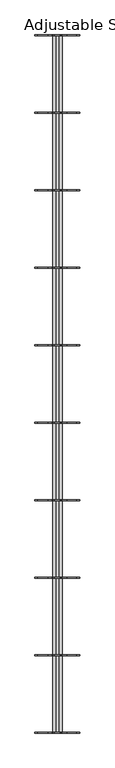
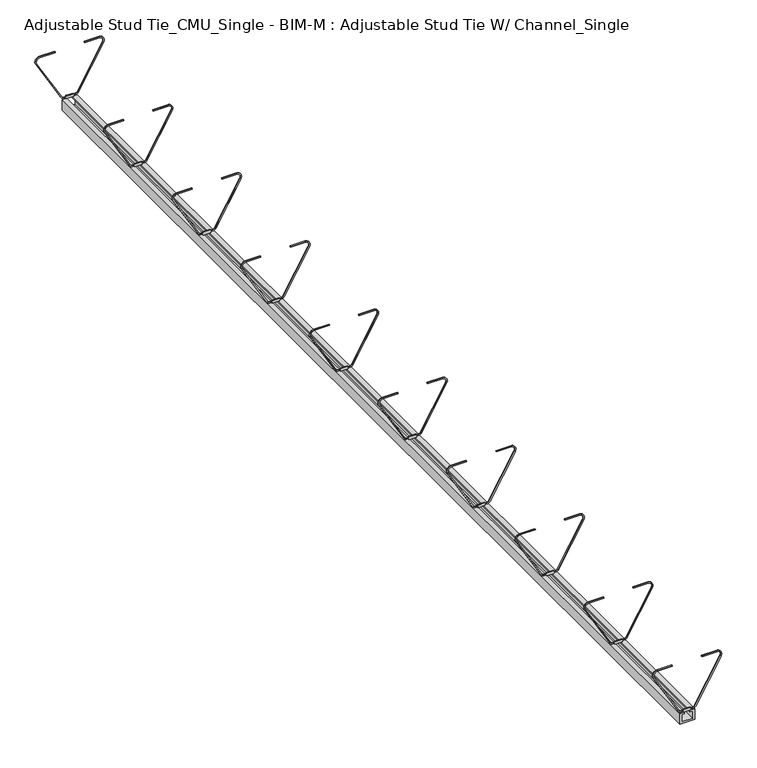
"""IFC4 building model written with IfcOpenShell, lengths in millimetres: proxy geometry, Adjustable Stud Tie_CMU_Single - BIM-M : Adjustable Stud Tie W/ Channel_Single."""

from ifc_helpers import new_model, si_unit, point, frame, frame_2d, origin, place, context, project, spatial, polyline, circle_curve, trimmed, segment, composite_curve, outline, extrude, source, transform, mapped, element, save


def adjustable_stud_tie_cmu_single_bim_m_adjustable_stud_tie_w_97ffc741(model_context):
    return source(origin(), model_context, "Body", "SweptSolid", [
        extrude(outline(composite_curve([segment(polyline([(-115.6954737, -10.6919936), (-115.6954737, -6.35), (-117.475, -6.35), (-117.475, 6.35), (-115.6954737, 6.35), (-115.6954737, 10.6919936)]), True, "CONTINUOUS"), segment(trimmed(circle_curve(frame_2d((-111.2621335, 10.5975194)), 4.4343467), [point((-115.6954737, 10.6919936))], [point((-113.4793069, 14.4377763))], False, "CARTESIAN"), True, "CONTINUOUS"), segment(polyline([(-113.4793069, 14.4377763), (-38.3089403, 57.8374077)]), True, "CONTINUOUS"), segment(trimmed(circle_curve(frame_2d((-34.2420568, 50.7933588)), 8.133767), [point((-38.3089403, 57.8374077))], [point((-26.1197927, 51.2257847))], False, "CARTESIAN"), True, "CONTINUOUS"), segment(polyline([(-26.1197927, 51.2257847), (-26.1197927, 25.4), (-27.7072927, 25.4), (-27.7072927, 51.1812638)]), True, "CONTINUOUS"), segment(trimmed(circle_curve(frame_2d((-34.2420568, 50.7933588)), 6.546267), [point((-27.7072927, 51.1812638))], [point((-37.5151903, 56.4625923))], True, "CARTESIAN"), True, "CONTINUOUS"), segment(polyline([(-37.5151903, 56.4625923), (-112.6855569, 13.062961)]), True, "CONTINUOUS"), segment(trimmed(circle_curve(frame_2d((-111.2621335, 10.5975194)), 2.8468467), [point((-112.6855569, 13.062961))], [point((-114.1079737, 10.6732143))], True, "CARTESIAN"), True, "CONTINUOUS"), segment(polyline([(-114.1079737, 10.6732143), (-114.1079737, 6.35), (-112.7125, 6.35), (-112.7125, -6.35), (-114.1079737, -6.35), (-114.1079737, -10.6732143)]), True, "CONTINUOUS"), segment(trimmed(circle_curve(frame_2d((-111.2621335, -10.5975194)), 2.8468467), [point((-114.1079737, -10.6732143))], [point((-112.6855569, -13.062961))], True, "CARTESIAN"), True, "CONTINUOUS"), segment(polyline([(-112.6855569, -13.062961), (-37.5151903, -56.4625923)]), True, "CONTINUOUS"), segment(trimmed(circle_curve(frame_2d((-34.2420568, -50.7933588)), 6.546267), [point((-37.5151903, -56.4625923))], [point((-27.7072927, -51.1812638))], True, "CARTESIAN"), True, "CONTINUOUS"), segment(polyline([(-27.7072927, -51.1812638), (-27.7072927, -25.4), (-26.1197927, -25.4), (-26.1197927, -51.2257847)]), True, "CONTINUOUS"), segment(trimmed(circle_curve(frame_2d((-34.2420568, -50.7933588)), 8.133767), [point((-26.1197927, -51.2257847))], [point((-38.3089403, -57.8374077))], False, "CARTESIAN"), True, "CONTINUOUS"), segment(polyline([(-38.3089403, -57.8374077), (-113.4793069, -14.4377763)]), True, "CONTINUOUS"), segment(trimmed(circle_curve(frame_2d((-111.2621335, -10.5975194)), 4.4343467), [point((-113.4793069, -14.4377763))], [point((-115.6954737, -10.6919936))], False, "CARTESIAN"), True, "CONTINUOUS")], self_intersect=False)), frame((0.0, 1828.8, 0.0), z_axis=(0.0, 1.0, 0.0), x_axis=(0.0, 0.0, 1.0)), (0.0, 0.0, 1.0), 1.5875),
        extrude(outline(composite_curve([segment(polyline([(-115.6954737, -10.6919936), (-115.6954737, -6.35), (-117.475, -6.35), (-117.475, 6.35), (-115.6954737, 6.35), (-115.6954737, 10.6919936)]), True, "CONTINUOUS"), segment(trimmed(circle_curve(frame_2d((-111.2621335, 10.5975194)), 4.4343467), [point((-115.6954737, 10.6919936))], [point((-113.4793069, 14.4377763))], False, "CARTESIAN"), True, "CONTINUOUS"), segment(polyline([(-113.4793069, 14.4377763), (-38.3089403, 57.8374077)]), True, "CONTINUOUS"), segment(trimmed(circle_curve(frame_2d((-34.2420568, 50.7933588)), 8.133767), [point((-38.3089403, 57.8374077))], [point((-26.1197927, 51.2257847))], False, "CARTESIAN"), True, "CONTINUOUS"), segment(polyline([(-26.1197927, 51.2257847), (-26.1197927, 25.4), (-27.7072927, 25.4), (-27.7072927, 51.1812638)]), True, "CONTINUOUS"), segment(trimmed(circle_curve(frame_2d((-34.2420568, 50.7933588)), 6.546267), [point((-27.7072927, 51.1812638))], [point((-37.5151903, 56.4625923))], True, "CARTESIAN"), True, "CONTINUOUS"), segment(polyline([(-37.5151903, 56.4625923), (-112.6855569, 13.062961)]), True, "CONTINUOUS"), segment(trimmed(circle_curve(frame_2d((-111.2621335, 10.5975194)), 2.8468467), [point((-112.6855569, 13.062961))], [point((-114.1079737, 10.6732143))], True, "CARTESIAN"), True, "CONTINUOUS"), segment(polyline([(-114.1079737, 10.6732143), (-114.1079737, 6.35), (-112.7125, 6.35), (-112.7125, -6.35), (-114.1079737, -6.35), (-114.1079737, -10.6732143)]), True, "CONTINUOUS"), segment(trimmed(circle_curve(frame_2d((-111.2621335, -10.5975194)), 2.8468467), [point((-114.1079737, -10.6732143))], [point((-112.6855569, -13.062961))], True, "CARTESIAN"), True, "CONTINUOUS"), segment(polyline([(-112.6855569, -13.062961), (-37.5151903, -56.4625923)]), True, "CONTINUOUS"), segment(trimmed(circle_curve(frame_2d((-34.2420568, -50.7933588)), 6.546267), [point((-37.5151903, -56.4625923))], [point((-27.7072927, -51.1812638))], True, "CARTESIAN"), True, "CONTINUOUS"), segment(polyline([(-27.7072927, -51.1812638), (-27.7072927, -25.4), (-26.1197927, -25.4), (-26.1197927, -51.2257847)]), True, "CONTINUOUS"), segment(trimmed(circle_curve(frame_2d((-34.2420568, -50.7933588)), 8.133767), [point((-26.1197927, -51.2257847))], [point((-38.3089403, -57.8374077))], False, "CARTESIAN"), True, "CONTINUOUS"), segment(polyline([(-38.3089403, -57.8374077), (-113.4793069, -14.4377763)]), True, "CONTINUOUS"), segment(trimmed(circle_curve(frame_2d((-111.2621335, -10.5975194)), 4.4343467), [point((-113.4793069, -14.4377763))], [point((-115.6954737, -10.6919936))], False, "CARTESIAN"), True, "CONTINUOUS")], self_intersect=False)), frame((0.0, 1625.6, 0.0), z_axis=(0.0, 1.0, 0.0), x_axis=(0.0, 0.0, 1.0)), (0.0, 0.0, 1.0), 1.5875),
        extrude(outline(composite_curve([segment(polyline([(-115.6954737, -10.6919936), (-115.6954737, -6.35), (-117.475, -6.35), (-117.475, 6.35), (-115.6954737, 6.35), (-115.6954737, 10.6919936)]), True, "CONTINUOUS"), segment(trimmed(circle_curve(frame_2d((-111.2621335, 10.5975194)), 4.4343467), [point((-115.6954737, 10.6919936))], [point((-113.4793069, 14.4377763))], False, "CARTESIAN"), True, "CONTINUOUS"), segment(polyline([(-113.4793069, 14.4377763), (-38.3089403, 57.8374077)]), True, "CONTINUOUS"), segment(trimmed(circle_curve(frame_2d((-34.2420568, 50.7933588)), 8.133767), [point((-38.3089403, 57.8374077))], [point((-26.1197927, 51.2257847))], False, "CARTESIAN"), True, "CONTINUOUS"), segment(polyline([(-26.1197927, 51.2257847), (-26.1197927, 25.4), (-27.7072927, 25.4), (-27.7072927, 51.1812638)]), True, "CONTINUOUS"), segment(trimmed(circle_curve(frame_2d((-34.2420568, 50.7933588)), 6.546267), [point((-27.7072927, 51.1812638))], [point((-37.5151903, 56.4625923))], True, "CARTESIAN"), True, "CONTINUOUS"), segment(polyline([(-37.5151903, 56.4625923), (-112.6855569, 13.062961)]), True, "CONTINUOUS"), segment(trimmed(circle_curve(frame_2d((-111.2621335, 10.5975194)), 2.8468467), [point((-112.6855569, 13.062961))], [point((-114.1079737, 10.6732143))], True, "CARTESIAN"), True, "CONTINUOUS"), segment(polyline([(-114.1079737, 10.6732143), (-114.1079737, 6.35), (-112.7125, 6.35), (-112.7125, -6.35), (-114.1079737, -6.35), (-114.1079737, -10.6732143)]), True, "CONTINUOUS"), segment(trimmed(circle_curve(frame_2d((-111.2621335, -10.5975194)), 2.8468467), [point((-114.1079737, -10.6732143))], [point((-112.6855569, -13.062961))], True, "CARTESIAN"), True, "CONTINUOUS"), segment(polyline([(-112.6855569, -13.062961), (-37.5151903, -56.4625923)]), True, "CONTINUOUS"), segment(trimmed(circle_curve(frame_2d((-34.2420568, -50.7933588)), 6.546267), [point((-37.5151903, -56.4625923))], [point((-27.7072927, -51.1812638))], True, "CARTESIAN"), True, "CONTINUOUS"), segment(polyline([(-27.7072927, -51.1812638), (-27.7072927, -25.4), (-26.1197927, -25.4), (-26.1197927, -51.2257847)]), True, "CONTINUOUS"), segment(trimmed(circle_curve(frame_2d((-34.2420568, -50.7933588)), 8.133767), [point((-26.1197927, -51.2257847))], [point((-38.3089403, -57.8374077))], False, "CARTESIAN"), True, "CONTINUOUS"), segment(polyline([(-38.3089403, -57.8374077), (-113.4793069, -14.4377763)]), True, "CONTINUOUS"), segment(trimmed(circle_curve(frame_2d((-111.2621335, -10.5975194)), 4.4343467), [point((-113.4793069, -14.4377763))], [point((-115.6954737, -10.6919936))], False, "CARTESIAN"), True, "CONTINUOUS")], self_intersect=False)), frame((0.0, 1422.4, 0.0), z_axis=(0.0, 1.0, 0.0), x_axis=(0.0, 0.0, 1.0)), (0.0, 0.0, 1.0), 1.5875),
        extrude(outline(composite_curve([segment(polyline([(-115.6954737, -10.6919936), (-115.6954737, -6.35), (-117.475, -6.35), (-117.475, 6.35), (-115.6954737, 6.35), (-115.6954737, 10.6919936)]), True, "CONTINUOUS"), segment(trimmed(circle_curve(frame_2d((-111.2621335, 10.5975194)), 4.4343467), [point((-115.6954737, 10.6919936))], [point((-113.4793069, 14.4377763))], False, "CARTESIAN"), True, "CONTINUOUS"), segment(polyline([(-113.4793069, 14.4377763), (-38.3089403, 57.8374077)]), True, "CONTINUOUS"), segment(trimmed(circle_curve(frame_2d((-34.2420568, 50.7933588)), 8.133767), [point((-38.3089403, 57.8374077))], [point((-26.1197927, 51.2257847))], False, "CARTESIAN"), True, "CONTINUOUS"), segment(polyline([(-26.1197927, 51.2257847), (-26.1197927, 25.4), (-27.7072927, 25.4), (-27.7072927, 51.1812638)]), True, "CONTINUOUS"), segment(trimmed(circle_curve(frame_2d((-34.2420568, 50.7933588)), 6.546267), [point((-27.7072927, 51.1812638))], [point((-37.5151903, 56.4625923))], True, "CARTESIAN"), True, "CONTINUOUS"), segment(polyline([(-37.5151903, 56.4625923), (-112.6855569, 13.062961)]), True, "CONTINUOUS"), segment(trimmed(circle_curve(frame_2d((-111.2621335, 10.5975194)), 2.8468467), [point((-112.6855569, 13.062961))], [point((-114.1079737, 10.6732143))], True, "CARTESIAN"), True, "CONTINUOUS"), segment(polyline([(-114.1079737, 10.6732143), (-114.1079737, 6.35), (-112.7125, 6.35), (-112.7125, -6.35), (-114.1079737, -6.35), (-114.1079737, -10.6732143)]), True, "CONTINUOUS"), segment(trimmed(circle_curve(frame_2d((-111.2621335, -10.5975194)), 2.8468467), [point((-114.1079737, -10.6732143))], [point((-112.6855569, -13.062961))], True, "CARTESIAN"), True, "CONTINUOUS"), segment(polyline([(-112.6855569, -13.062961), (-37.5151903, -56.4625923)]), True, "CONTINUOUS"), segment(trimmed(circle_curve(frame_2d((-34.2420568, -50.7933588)), 6.546267), [point((-37.5151903, -56.4625923))], [point((-27.7072927, -51.1812638))], True, "CARTESIAN"), True, "CONTINUOUS"), segment(polyline([(-27.7072927, -51.1812638), (-27.7072927, -25.4), (-26.1197927, -25.4), (-26.1197927, -51.2257847)]), True, "CONTINUOUS"), segment(trimmed(circle_curve(frame_2d((-34.2420568, -50.7933588)), 8.133767), [point((-26.1197927, -51.2257847))], [point((-38.3089403, -57.8374077))], False, "CARTESIAN"), True, "CONTINUOUS"), segment(polyline([(-38.3089403, -57.8374077), (-113.4793069, -14.4377763)]), True, "CONTINUOUS"), segment(trimmed(circle_curve(frame_2d((-111.2621335, -10.5975194)), 4.4343467), [point((-113.4793069, -14.4377763))], [point((-115.6954737, -10.6919936))], False, "CARTESIAN"), True, "CONTINUOUS")], self_intersect=False)), frame((0.0, 1219.2, 0.0), z_axis=(0.0, 1.0, 0.0), x_axis=(0.0, 0.0, 1.0)), (0.0, 0.0, 1.0), 1.5875),
        extrude(outline(composite_curve([segment(polyline([(-115.6954737, -10.6919936), (-115.6954737, -6.35), (-117.475, -6.35), (-117.475, 6.35), (-115.6954737, 6.35), (-115.6954737, 10.6919936)]), True, "CONTINUOUS"), segment(trimmed(circle_curve(frame_2d((-111.2621335, 10.5975194)), 4.4343467), [point((-115.6954737, 10.6919936))], [point((-113.4793069, 14.4377763))], False, "CARTESIAN"), True, "CONTINUOUS"), segment(polyline([(-113.4793069, 14.4377763), (-38.3089403, 57.8374077)]), True, "CONTINUOUS"), segment(trimmed(circle_curve(frame_2d((-34.2420568, 50.7933588)), 8.133767), [point((-38.3089403, 57.8374077))], [point((-26.1197927, 51.2257847))], False, "CARTESIAN"), True, "CONTINUOUS"), segment(polyline([(-26.1197927, 51.2257847), (-26.1197927, 25.4), (-27.7072927, 25.4), (-27.7072927, 51.1812638)]), True, "CONTINUOUS"), segment(trimmed(circle_curve(frame_2d((-34.2420568, 50.7933588)), 6.546267), [point((-27.7072927, 51.1812638))], [point((-37.5151903, 56.4625923))], True, "CARTESIAN"), True, "CONTINUOUS"), segment(polyline([(-37.5151903, 56.4625923), (-112.6855569, 13.062961)]), True, "CONTINUOUS"), segment(trimmed(circle_curve(frame_2d((-111.2621335, 10.5975194)), 2.8468467), [point((-112.6855569, 13.062961))], [point((-114.1079737, 10.6732143))], True, "CARTESIAN"), True, "CONTINUOUS"), segment(polyline([(-114.1079737, 10.6732143), (-114.1079737, 6.35), (-112.7125, 6.35), (-112.7125, -6.35), (-114.1079737, -6.35), (-114.1079737, -10.6732143)]), True, "CONTINUOUS"), segment(trimmed(circle_curve(frame_2d((-111.2621335, -10.5975194)), 2.8468467), [point((-114.1079737, -10.6732143))], [point((-112.6855569, -13.062961))], True, "CARTESIAN"), True, "CONTINUOUS"), segment(polyline([(-112.6855569, -13.062961), (-37.5151903, -56.4625923)]), True, "CONTINUOUS"), segment(trimmed(circle_curve(frame_2d((-34.2420568, -50.7933588)), 6.546267), [point((-37.5151903, -56.4625923))], [point((-27.7072927, -51.1812638))], True, "CARTESIAN"), True, "CONTINUOUS"), segment(polyline([(-27.7072927, -51.1812638), (-27.7072927, -25.4), (-26.1197927, -25.4), (-26.1197927, -51.2257847)]), True, "CONTINUOUS"), segment(trimmed(circle_curve(frame_2d((-34.2420568, -50.7933588)), 8.133767), [point((-26.1197927, -51.2257847))], [point((-38.3089403, -57.8374077))], False, "CARTESIAN"), True, "CONTINUOUS"), segment(polyline([(-38.3089403, -57.8374077), (-113.4793069, -14.4377763)]), True, "CONTINUOUS"), segment(trimmed(circle_curve(frame_2d((-111.2621335, -10.5975194)), 4.4343467), [point((-113.4793069, -14.4377763))], [point((-115.6954737, -10.6919936))], False, "CARTESIAN"), True, "CONTINUOUS")], self_intersect=False)), frame((0.0, 1016.0, 0.0), z_axis=(0.0, 1.0, 0.0), x_axis=(0.0, 0.0, 1.0)), (0.0, 0.0, 1.0), 1.5875),
        extrude(outline(composite_curve([segment(polyline([(-115.6954737, -10.6919936), (-115.6954737, -6.35), (-117.475, -6.35), (-117.475, 6.35), (-115.6954737, 6.35), (-115.6954737, 10.6919936)]), True, "CONTINUOUS"), segment(trimmed(circle_curve(frame_2d((-111.2621335, 10.5975194)), 4.4343467), [point((-115.6954737, 10.6919936))], [point((-113.4793069, 14.4377763))], False, "CARTESIAN"), True, "CONTINUOUS"), segment(polyline([(-113.4793069, 14.4377763), (-38.3089403, 57.8374077)]), True, "CONTINUOUS"), segment(trimmed(circle_curve(frame_2d((-34.2420568, 50.7933588)), 8.133767), [point((-38.3089403, 57.8374077))], [point((-26.1197927, 51.2257847))], False, "CARTESIAN"), True, "CONTINUOUS"), segment(polyline([(-26.1197927, 51.2257847), (-26.1197927, 25.4), (-27.7072927, 25.4), (-27.7072927, 51.1812638)]), True, "CONTINUOUS"), segment(trimmed(circle_curve(frame_2d((-34.2420568, 50.7933588)), 6.546267), [point((-27.7072927, 51.1812638))], [point((-37.5151903, 56.4625923))], True, "CARTESIAN"), True, "CONTINUOUS"), segment(polyline([(-37.5151903, 56.4625923), (-112.6855569, 13.062961)]), True, "CONTINUOUS"), segment(trimmed(circle_curve(frame_2d((-111.2621335, 10.5975194)), 2.8468467), [point((-112.6855569, 13.062961))], [point((-114.1079737, 10.6732143))], True, "CARTESIAN"), True, "CONTINUOUS"), segment(polyline([(-114.1079737, 10.6732143), (-114.1079737, 6.35), (-112.7125, 6.35), (-112.7125, -6.35), (-114.1079737, -6.35), (-114.1079737, -10.6732143)]), True, "CONTINUOUS"), segment(trimmed(circle_curve(frame_2d((-111.2621335, -10.5975194)), 2.8468467), [point((-114.1079737, -10.6732143))], [point((-112.6855569, -13.062961))], True, "CARTESIAN"), True, "CONTINUOUS"), segment(polyline([(-112.6855569, -13.062961), (-37.5151903, -56.4625923)]), True, "CONTINUOUS"), segment(trimmed(circle_curve(frame_2d((-34.2420568, -50.7933588)), 6.546267), [point((-37.5151903, -56.4625923))], [point((-27.7072927, -51.1812638))], True, "CARTESIAN"), True, "CONTINUOUS"), segment(polyline([(-27.7072927, -51.1812638), (-27.7072927, -25.4), (-26.1197927, -25.4), (-26.1197927, -51.2257847)]), True, "CONTINUOUS"), segment(trimmed(circle_curve(frame_2d((-34.2420568, -50.7933588)), 8.133767), [point((-26.1197927, -51.2257847))], [point((-38.3089403, -57.8374077))], False, "CARTESIAN"), True, "CONTINUOUS"), segment(polyline([(-38.3089403, -57.8374077), (-113.4793069, -14.4377763)]), True, "CONTINUOUS"), segment(trimmed(circle_curve(frame_2d((-111.2621335, -10.5975194)), 4.4343467), [point((-113.4793069, -14.4377763))], [point((-115.6954737, -10.6919936))], False, "CARTESIAN"), True, "CONTINUOUS")], self_intersect=False)), frame((0.0, 812.8, 0.0), z_axis=(0.0, 1.0, 0.0), x_axis=(0.0, 0.0, 1.0)), (0.0, 0.0, 1.0), 1.5875),
        extrude(outline(composite_curve([segment(polyline([(-115.6954737, -10.6919936), (-115.6954737, -6.35), (-117.475, -6.35), (-117.475, 6.35), (-115.6954737, 6.35), (-115.6954737, 10.6919936)]), True, "CONTINUOUS"), segment(trimmed(circle_curve(frame_2d((-111.2621335, 10.5975194)), 4.4343467), [point((-115.6954737, 10.6919936))], [point((-113.4793069, 14.4377763))], False, "CARTESIAN"), True, "CONTINUOUS"), segment(polyline([(-113.4793069, 14.4377763), (-38.3089403, 57.8374077)]), True, "CONTINUOUS"), segment(trimmed(circle_curve(frame_2d((-34.2420568, 50.7933588)), 8.133767), [point((-38.3089403, 57.8374077))], [point((-26.1197927, 51.2257847))], False, "CARTESIAN"), True, "CONTINUOUS"), segment(polyline([(-26.1197927, 51.2257847), (-26.1197927, 25.4), (-27.7072927, 25.4), (-27.7072927, 51.1812638)]), True, "CONTINUOUS"), segment(trimmed(circle_curve(frame_2d((-34.2420568, 50.7933588)), 6.546267), [point((-27.7072927, 51.1812638))], [point((-37.5151903, 56.4625923))], True, "CARTESIAN"), True, "CONTINUOUS"), segment(polyline([(-37.5151903, 56.4625923), (-112.6855569, 13.062961)]), True, "CONTINUOUS"), segment(trimmed(circle_curve(frame_2d((-111.2621335, 10.5975194)), 2.8468467), [point((-112.6855569, 13.062961))], [point((-114.1079737, 10.6732143))], True, "CARTESIAN"), True, "CONTINUOUS"), segment(polyline([(-114.1079737, 10.6732143), (-114.1079737, 6.35), (-112.7125, 6.35), (-112.7125, -6.35), (-114.1079737, -6.35), (-114.1079737, -10.6732143)]), True, "CONTINUOUS"), segment(trimmed(circle_curve(frame_2d((-111.2621335, -10.5975194)), 2.8468467), [point((-114.1079737, -10.6732143))], [point((-112.6855569, -13.062961))], True, "CARTESIAN"), True, "CONTINUOUS"), segment(polyline([(-112.6855569, -13.062961), (-37.5151903, -56.4625923)]), True, "CONTINUOUS"), segment(trimmed(circle_curve(frame_2d((-34.2420568, -50.7933588)), 6.546267), [point((-37.5151903, -56.4625923))], [point((-27.7072927, -51.1812638))], True, "CARTESIAN"), True, "CONTINUOUS"), segment(polyline([(-27.7072927, -51.1812638), (-27.7072927, -25.4), (-26.1197927, -25.4), (-26.1197927, -51.2257847)]), True, "CONTINUOUS"), segment(trimmed(circle_curve(frame_2d((-34.2420568, -50.7933588)), 8.133767), [point((-26.1197927, -51.2257847))], [point((-38.3089403, -57.8374077))], False, "CARTESIAN"), True, "CONTINUOUS"), segment(polyline([(-38.3089403, -57.8374077), (-113.4793069, -14.4377763)]), True, "CONTINUOUS"), segment(trimmed(circle_curve(frame_2d((-111.2621335, -10.5975194)), 4.4343467), [point((-113.4793069, -14.4377763))], [point((-115.6954737, -10.6919936))], False, "CARTESIAN"), True, "CONTINUOUS")], self_intersect=False)), frame((0.0, 609.6, 0.0), z_axis=(0.0, 1.0, 0.0), x_axis=(0.0, 0.0, 1.0)), (0.0, 0.0, 1.0), 1.5875),
        extrude(outline(composite_curve([segment(polyline([(-115.6954737, -10.6919936), (-115.6954737, -6.35), (-117.475, -6.35), (-117.475, 6.35), (-115.6954737, 6.35), (-115.6954737, 10.6919936)]), True, "CONTINUOUS"), segment(trimmed(circle_curve(frame_2d((-111.2621335, 10.5975194)), 4.4343467), [point((-115.6954737, 10.6919936))], [point((-113.4793069, 14.4377763))], False, "CARTESIAN"), True, "CONTINUOUS"), segment(polyline([(-113.4793069, 14.4377763), (-38.3089403, 57.8374077)]), True, "CONTINUOUS"), segment(trimmed(circle_curve(frame_2d((-34.2420568, 50.7933588)), 8.133767), [point((-38.3089403, 57.8374077))], [point((-26.1197927, 51.2257847))], False, "CARTESIAN"), True, "CONTINUOUS"), segment(polyline([(-26.1197927, 51.2257847), (-26.1197927, 25.4), (-27.7072927, 25.4), (-27.7072927, 51.1812638)]), True, "CONTINUOUS"), segment(trimmed(circle_curve(frame_2d((-34.2420568, 50.7933588)), 6.546267), [point((-27.7072927, 51.1812638))], [point((-37.5151903, 56.4625923))], True, "CARTESIAN"), True, "CONTINUOUS"), segment(polyline([(-37.5151903, 56.4625923), (-112.6855569, 13.062961)]), True, "CONTINUOUS"), segment(trimmed(circle_curve(frame_2d((-111.2621335, 10.5975194)), 2.8468467), [point((-112.6855569, 13.062961))], [point((-114.1079737, 10.6732143))], True, "CARTESIAN"), True, "CONTINUOUS"), segment(polyline([(-114.1079737, 10.6732143), (-114.1079737, 6.35), (-112.7125, 6.35), (-112.7125, -6.35), (-114.1079737, -6.35), (-114.1079737, -10.6732143)]), True, "CONTINUOUS"), segment(trimmed(circle_curve(frame_2d((-111.2621335, -10.5975194)), 2.8468467), [point((-114.1079737, -10.6732143))], [point((-112.6855569, -13.062961))], True, "CARTESIAN"), True, "CONTINUOUS"), segment(polyline([(-112.6855569, -13.062961), (-37.5151903, -56.4625923)]), True, "CONTINUOUS"), segment(trimmed(circle_curve(frame_2d((-34.2420568, -50.7933588)), 6.546267), [point((-37.5151903, -56.4625923))], [point((-27.7072927, -51.1812638))], True, "CARTESIAN"), True, "CONTINUOUS"), segment(polyline([(-27.7072927, -51.1812638), (-27.7072927, -25.4), (-26.1197927, -25.4), (-26.1197927, -51.2257847)]), True, "CONTINUOUS"), segment(trimmed(circle_curve(frame_2d((-34.2420568, -50.7933588)), 8.133767), [point((-26.1197927, -51.2257847))], [point((-38.3089403, -57.8374077))], False, "CARTESIAN"), True, "CONTINUOUS"), segment(polyline([(-38.3089403, -57.8374077), (-113.4793069, -14.4377763)]), True, "CONTINUOUS"), segment(trimmed(circle_curve(frame_2d((-111.2621335, -10.5975194)), 4.4343467), [point((-113.4793069, -14.4377763))], [point((-115.6954737, -10.6919936))], False, "CARTESIAN"), True, "CONTINUOUS")], self_intersect=False)), frame((0.0, 406.4, 0.0), z_axis=(0.0, 1.0, 0.0), x_axis=(0.0, 0.0, 1.0)), (0.0, 0.0, 1.0), 1.5875),
        extrude(outline(composite_curve([segment(polyline([(-115.6954737, -10.6919936), (-115.6954737, -6.35), (-117.475, -6.35), (-117.475, 6.35), (-115.6954737, 6.35), (-115.6954737, 10.6919936)]), True, "CONTINUOUS"), segment(trimmed(circle_curve(frame_2d((-111.2621335, 10.5975194)), 4.4343467), [point((-115.6954737, 10.6919936))], [point((-113.4793069, 14.4377763))], False, "CARTESIAN"), True, "CONTINUOUS"), segment(polyline([(-113.4793069, 14.4377763), (-38.3089403, 57.8374077)]), True, "CONTINUOUS"), segment(trimmed(circle_curve(frame_2d((-34.2420568, 50.7933588)), 8.133767), [point((-38.3089403, 57.8374077))], [point((-26.1197927, 51.2257847))], False, "CARTESIAN"), True, "CONTINUOUS"), segment(polyline([(-26.1197927, 51.2257847), (-26.1197927, 25.4), (-27.7072927, 25.4), (-27.7072927, 51.1812638)]), True, "CONTINUOUS"), segment(trimmed(circle_curve(frame_2d((-34.2420568, 50.7933588)), 6.546267), [point((-27.7072927, 51.1812638))], [point((-37.5151903, 56.4625923))], True, "CARTESIAN"), True, "CONTINUOUS"), segment(polyline([(-37.5151903, 56.4625923), (-112.6855569, 13.062961)]), True, "CONTINUOUS"), segment(trimmed(circle_curve(frame_2d((-111.2621335, 10.5975194)), 2.8468467), [point((-112.6855569, 13.062961))], [point((-114.1079737, 10.6732143))], True, "CARTESIAN"), True, "CONTINUOUS"), segment(polyline([(-114.1079737, 10.6732143), (-114.1079737, 6.35), (-112.7125, 6.35), (-112.7125, -6.35), (-114.1079737, -6.35), (-114.1079737, -10.6732143)]), True, "CONTINUOUS"), segment(trimmed(circle_curve(frame_2d((-111.2621335, -10.5975194)), 2.8468467), [point((-114.1079737, -10.6732143))], [point((-112.6855569, -13.062961))], True, "CARTESIAN"), True, "CONTINUOUS"), segment(polyline([(-112.6855569, -13.062961), (-37.5151903, -56.4625923)]), True, "CONTINUOUS"), segment(trimmed(circle_curve(frame_2d((-34.2420568, -50.7933588)), 6.546267), [point((-37.5151903, -56.4625923))], [point((-27.7072927, -51.1812638))], True, "CARTESIAN"), True, "CONTINUOUS"), segment(polyline([(-27.7072927, -51.1812638), (-27.7072927, -25.4), (-26.1197927, -25.4), (-26.1197927, -51.2257847)]), True, "CONTINUOUS"), segment(trimmed(circle_curve(frame_2d((-34.2420568, -50.7933588)), 8.133767), [point((-26.1197927, -51.2257847))], [point((-38.3089403, -57.8374077))], False, "CARTESIAN"), True, "CONTINUOUS"), segment(polyline([(-38.3089403, -57.8374077), (-113.4793069, -14.4377763)]), True, "CONTINUOUS"), segment(trimmed(circle_curve(frame_2d((-111.2621335, -10.5975194)), 4.4343467), [point((-113.4793069, -14.4377763))], [point((-115.6954737, -10.6919936))], False, "CARTESIAN"), True, "CONTINUOUS")], self_intersect=False)), frame((0.0, 203.2, 0.0), z_axis=(0.0, 1.0, 0.0), x_axis=(0.0, 0.0, 1.0)), (0.0, 0.0, 1.0), 1.5875),
        extrude(outline(composite_curve([segment(polyline([(-115.6954737, -10.6919936), (-115.6954737, -6.35), (-117.475, -6.35), (-117.475, 6.35), (-115.6954737, 6.35), (-115.6954737, 10.6919936)]), True, "CONTINUOUS"), segment(trimmed(circle_curve(frame_2d((-111.2621335, 10.5975194)), 4.4343467), [point((-115.6954737, 10.6919936))], [point((-113.4793069, 14.4377763))], False, "CARTESIAN"), True, "CONTINUOUS"), segment(polyline([(-113.4793069, 14.4377763), (-38.3089403, 57.8374077)]), True, "CONTINUOUS"), segment(trimmed(circle_curve(frame_2d((-34.2420568, 50.7933588)), 8.133767), [point((-38.3089403, 57.8374077))], [point((-26.1197927, 51.2257847))], False, "CARTESIAN"), True, "CONTINUOUS"), segment(polyline([(-26.1197927, 51.2257847), (-26.1197927, 25.4), (-27.7072927, 25.4), (-27.7072927, 51.1812638)]), True, "CONTINUOUS"), segment(trimmed(circle_curve(frame_2d((-34.2420568, 50.7933588)), 6.546267), [point((-27.7072927, 51.1812638))], [point((-37.5151903, 56.4625923))], True, "CARTESIAN"), True, "CONTINUOUS"), segment(polyline([(-37.5151903, 56.4625923), (-112.6855569, 13.062961)]), True, "CONTINUOUS"), segment(trimmed(circle_curve(frame_2d((-111.2621335, 10.5975194)), 2.8468467), [point((-112.6855569, 13.062961))], [point((-114.1079737, 10.6732143))], True, "CARTESIAN"), True, "CONTINUOUS"), segment(polyline([(-114.1079737, 10.6732143), (-114.1079737, 6.35), (-112.7125, 6.35), (-112.7125, -6.35), (-114.1079737, -6.35), (-114.1079737, -10.6732143)]), True, "CONTINUOUS"), segment(trimmed(circle_curve(frame_2d((-111.2621335, -10.5975194)), 2.8468467), [point((-114.1079737, -10.6732143))], [point((-112.6855569, -13.062961))], True, "CARTESIAN"), True, "CONTINUOUS"), segment(polyline([(-112.6855569, -13.062961), (-37.5151903, -56.4625923)]), True, "CONTINUOUS"), segment(trimmed(circle_curve(frame_2d((-34.2420568, -50.7933588)), 6.546267), [point((-37.5151903, -56.4625923))], [point((-27.7072927, -51.1812638))], True, "CARTESIAN"), True, "CONTINUOUS"), segment(polyline([(-27.7072927, -51.1812638), (-27.7072927, -25.4), (-26.1197927, -25.4), (-26.1197927, -51.2257847)]), True, "CONTINUOUS"), segment(trimmed(circle_curve(frame_2d((-34.2420568, -50.7933588)), 8.133767), [point((-26.1197927, -51.2257847))], [point((-38.3089403, -57.8374077))], False, "CARTESIAN"), True, "CONTINUOUS"), segment(polyline([(-38.3089403, -57.8374077), (-113.4793069, -14.4377763)]), True, "CONTINUOUS"), segment(trimmed(circle_curve(frame_2d((-111.2621335, -10.5975194)), 4.4343467), [point((-113.4793069, -14.4377763))], [point((-115.6954737, -10.6919936))], False, "CARTESIAN"), True, "CONTINUOUS")], self_intersect=False)), frame((0.0, 0.0, 0.0), z_axis=(0.0, 1.0, 0.0), x_axis=(0.0, 0.0, 1.0)), (0.0, 0.0, 1.0), 1.5875),
        extrude(outline(polyline([(-136.525, 12.7), (-117.475, 12.7), (-117.475, 4.7669306), (-120.65, 4.7669306), (-120.65, 9.525), (-133.35, 9.525), (-133.35, -9.525), (-120.65, -9.525), (-120.65, -4.7669306), (-117.475, -4.7669306), (-117.475, -12.7), (-136.525, -12.7), (-136.525, 12.7)])), frame((0.0, 0.0, 0.0), z_axis=(0.0, 1.0, 0.0), x_axis=(0.0, 0.0, 1.0)), (0.0, 0.0, 1.0), 1829.59375),
    ])


if __name__ == "__main__":
    model = new_model("IFC4")
    model_context = context("Model", 3, world=origin())
    ifc_project = project(units=[si_unit("LENGTHUNIT", "METRE", prefix="MILLI")], contexts=[model_context])
    site = spatial("IfcSite", under=ifc_project)
    building = spatial("IfcBuilding", under=site)
    placement = place(None, origin())
    adjustable_stud_tie_cmu_single_bim_m_adjustable_stud_tie_w_shape = adjustable_stud_tie_cmu_single_bim_m_adjustable_stud_tie_w_97ffc741(model_context)
    element("IfcBuildingElementProxy", 1, Name="Adjustable Stud Tie_CMU_Single - BIM-M : Adjustable Stud Tie W/ Channel_Single", ObjectType="Adjustable Stud Tie_CMU_Single - BIM-M : Adjustable Stud Tie W/ Channel_Single", at=placement, inside=building, context=model_context, shape_type="MappedRepresentation", body=[
        mapped(adjustable_stud_tie_cmu_single_bim_m_adjustable_stud_tie_w_shape, transform((0.0, 0.0, 0.0), x_axis=(1.0, 0.0, 0.0), y_axis=(0.0, 1.0, 0.0), z_axis=(0.0, 0.0, 1.0))),
    ])
    save(model, "model.ifc")
